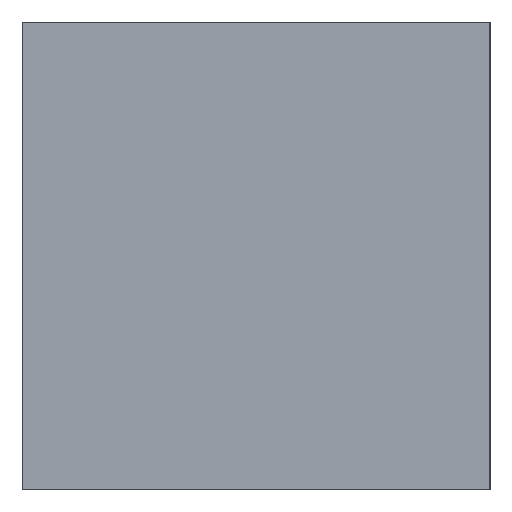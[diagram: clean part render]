
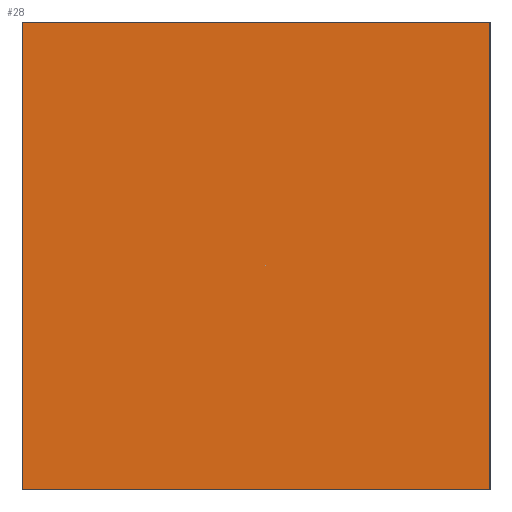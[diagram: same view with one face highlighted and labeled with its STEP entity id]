
A CAD part, left-side view. The second image highlights one B-rep face of the part: STEP entity #28.
In plain terms, the highlighted planar face has unit normal (-1, 0, 0).
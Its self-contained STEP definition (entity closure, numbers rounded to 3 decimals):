
#28=ADVANCED_FACE('',(#34),#186,.T.);
#34=FACE_OUTER_BOUND('',#40,.T.);
#40=EDGE_LOOP('',(#58,#59,#60,#61));
#58=ORIENTED_EDGE('',*,*,#136,.F.);
#59=ORIENTED_EDGE('',*,*,#133,.F.);
#60=ORIENTED_EDGE('',*,*,#130,.F.);
#61=ORIENTED_EDGE('',*,*,#126,.F.);
#66=PCURVE('',#182,#90);
#70=PCURVE('',#183,#94);
#74=PCURVE('',#184,#98);
#78=PCURVE('',#185,#102);
#82=PCURVE('',#186,#106);
#83=PCURVE('',#186,#107);
#84=PCURVE('',#186,#108);
#85=PCURVE('',#186,#109);
#90=DEFINITIONAL_REPRESENTATION('',(#139),#313);
#94=DEFINITIONAL_REPRESENTATION('',(#147),#313);
#98=DEFINITIONAL_REPRESENTATION('',(#154),#313);
#102=DEFINITIONAL_REPRESENTATION('',(#161),#313);
#106=DEFINITIONAL_REPRESENTATION('',(#166),#313);
#107=DEFINITIONAL_REPRESENTATION('',(#167),#313);
#108=DEFINITIONAL_REPRESENTATION('',(#168),#313);
#109=DEFINITIONAL_REPRESENTATION('',(#169),#313);
#114=SURFACE_CURVE('',#138,(#66,#85),.PCURVE_S1.);
#118=SURFACE_CURVE('',#146,(#70,#84),.PCURVE_S1.);
#121=SURFACE_CURVE('',#153,(#74,#83),.PCURVE_S1.);
#124=SURFACE_CURVE('',#160,(#78,#82),.PCURVE_S1.);
#126=EDGE_CURVE('',#174,#175,#114,.T.);
#130=EDGE_CURVE('',#175,#178,#118,.T.);
#133=EDGE_CURVE('',#178,#180,#121,.T.);
#136=EDGE_CURVE('',#180,#174,#124,.T.);
#138=B_SPLINE_CURVE_WITH_KNOTS('',1,(#240,#241),.UNSPECIFIED.,.F.,.F.,(2,
2),(0.,50.),.UNSPECIFIED.);
#139=B_SPLINE_CURVE_WITH_KNOTS('',1,(#242,#243),.UNSPECIFIED.,.F.,.F.,(2,
2),(0.,50.),.UNSPECIFIED.);
#146=B_SPLINE_CURVE_WITH_KNOTS('',1,(#256,#257),.UNSPECIFIED.,.F.,.F.,(2,
2),(50.,100.),.UNSPECIFIED.);
#147=B_SPLINE_CURVE_WITH_KNOTS('',1,(#258,#259),.UNSPECIFIED.,.F.,.F.,(2,
2),(50.,100.),.UNSPECIFIED.);
#153=B_SPLINE_CURVE_WITH_KNOTS('',1,(#270,#271),.UNSPECIFIED.,.F.,.F.,(2,
2),(100.,150.),.UNSPECIFIED.);
#154=B_SPLINE_CURVE_WITH_KNOTS('',1,(#272,#273),.UNSPECIFIED.,.F.,.F.,(2,
2),(100.,150.),.UNSPECIFIED.);
#160=B_SPLINE_CURVE_WITH_KNOTS('',1,(#284,#285),.UNSPECIFIED.,.F.,.F.,(2,
2),(150.,200.),.UNSPECIFIED.);
#161=B_SPLINE_CURVE_WITH_KNOTS('',1,(#286,#287),.UNSPECIFIED.,.F.,.F.,(2,
2),(150.,200.),.UNSPECIFIED.);
#166=B_SPLINE_CURVE_WITH_KNOTS('',1,(#296,#297),.UNSPECIFIED.,.F.,.F.,(2,
2),(150.,200.),.UNSPECIFIED.);
#167=B_SPLINE_CURVE_WITH_KNOTS('',1,(#298,#299),.UNSPECIFIED.,.F.,.F.,(2,
2),(100.,150.),.UNSPECIFIED.);
#168=B_SPLINE_CURVE_WITH_KNOTS('',1,(#300,#301),.UNSPECIFIED.,.F.,.F.,(2,
2),(50.,100.),.UNSPECIFIED.);
#169=B_SPLINE_CURVE_WITH_KNOTS('',1,(#302,#303),.UNSPECIFIED.,.F.,.F.,(2,
2),(0.,50.),.UNSPECIFIED.);
#174=VERTEX_POINT('',#232);
#175=VERTEX_POINT('',#233);
#178=VERTEX_POINT('',#236);
#180=VERTEX_POINT('',#238);
#182=PLANE('',#208);
#183=PLANE('',#209);
#184=PLANE('',#210);
#185=PLANE('',#211);
#186=PLANE('',#212);
#208=AXIS2_PLACEMENT_3D('',#226,#217,$);
#209=AXIS2_PLACEMENT_3D('',#227,#218,$);
#210=AXIS2_PLACEMENT_3D('',#228,#219,$);
#211=AXIS2_PLACEMENT_3D('',#229,#220,$);
#212=AXIS2_PLACEMENT_3D('',#230,#221,$);
#217=DIRECTION('',(0.,0.,-1.));
#218=DIRECTION('',(0.,1.,0.));
#219=DIRECTION('',(0.,0.,1.));
#220=DIRECTION('',(0.,-1.,0.));
#221=DIRECTION('',(-1.,0.,0.));
#226=CARTESIAN_POINT('',(-735.,35.,-16.));
#227=CARTESIAN_POINT('',(-735.,75.,-16.));
#228=CARTESIAN_POINT('',(-735.,75.,24.));
#229=CARTESIAN_POINT('',(-735.,35.,24.));
#230=CARTESIAN_POINT('',(-735.,35.,-16.));
#232=CARTESIAN_POINT('',(-735.,35.,-16.));
#233=CARTESIAN_POINT('',(-735.,75.,-16.));
#236=CARTESIAN_POINT('',(-735.,75.,24.));
#238=CARTESIAN_POINT('',(-735.,35.,24.));
#240=CARTESIAN_POINT('',(-735.,35.,-16.));
#241=CARTESIAN_POINT('',(-735.,75.,-16.));
#242=CARTESIAN_POINT('',(0.,0.));
#243=CARTESIAN_POINT('',(50.,0.));
#256=CARTESIAN_POINT('',(-735.,75.,-16.));
#257=CARTESIAN_POINT('',(-735.,75.,24.));
#258=CARTESIAN_POINT('',(50.,0.));
#259=CARTESIAN_POINT('',(100.,0.));
#270=CARTESIAN_POINT('',(-735.,75.,24.));
#271=CARTESIAN_POINT('',(-735.,35.,24.));
#272=CARTESIAN_POINT('',(100.,0.));
#273=CARTESIAN_POINT('',(150.,0.));
#284=CARTESIAN_POINT('',(-735.,35.,24.));
#285=CARTESIAN_POINT('',(-735.,35.,-16.));
#286=CARTESIAN_POINT('',(150.,0.));
#287=CARTESIAN_POINT('',(200.,0.));
#296=CARTESIAN_POINT('',(40.,0.));
#297=CARTESIAN_POINT('',(0.,0.));
#298=CARTESIAN_POINT('',(40.,40.));
#299=CARTESIAN_POINT('',(40.,0.));
#300=CARTESIAN_POINT('',(0.,40.));
#301=CARTESIAN_POINT('',(40.,40.));
#302=CARTESIAN_POINT('',(0.,0.));
#303=CARTESIAN_POINT('',(0.,40.));
#313=(
GEOMETRIC_REPRESENTATION_CONTEXT(2)
PARAMETRIC_REPRESENTATION_CONTEXT()
REPRESENTATION_CONTEXT('pspace','')
);
